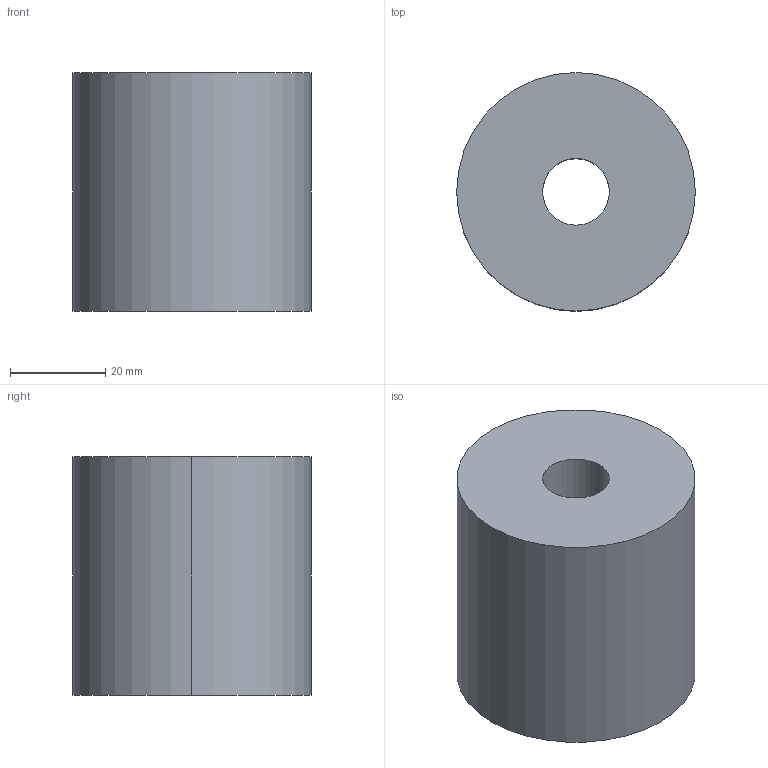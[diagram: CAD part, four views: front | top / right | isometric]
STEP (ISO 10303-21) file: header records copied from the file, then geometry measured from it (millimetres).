
FILE_DESCRIPTION(/* description */ (''),/* implementation_level */ '2;1');
FILE_NAME(/* name */ '3d_pa50-50_04914_r00.stp',/* time_stamp */ '2011-01-10T14:11:58+09:00',/* author */ ('MISUMI'),/* organization */ (''),/* preprocessor_version */ 'ST-DEVELOPER v11',/* originating_system */ 'UGS - NX 5.0',/* authorisation */ '');
FILE_SCHEMA (('CONFIG_CONTROL_DESIGN'));
Length unit declared in the file: millimetre
Products named in the file (1): 3d_pa50-50_04914_r00
Bounding box: 50 x 50 x 50 mm (x, y, z)
Volume: 90477.9 mm3; surface area: 13672.2 mm2
Topology: 1 solids, 1 shells, 6 faces, 12 edges, 8 vertices
Faces by surface type: cylinder 4, plane 2
Entity records: 254 total; most frequent: DIRECTION 34, CARTESIAN_POINT 27, ORIENTED_EDGE 24, AXIS2_PLACEMENT_3D 15, EDGE_CURVE 12, EDGE_LOOP 8, VERTEX_POINT 8, CIRCLE 8
